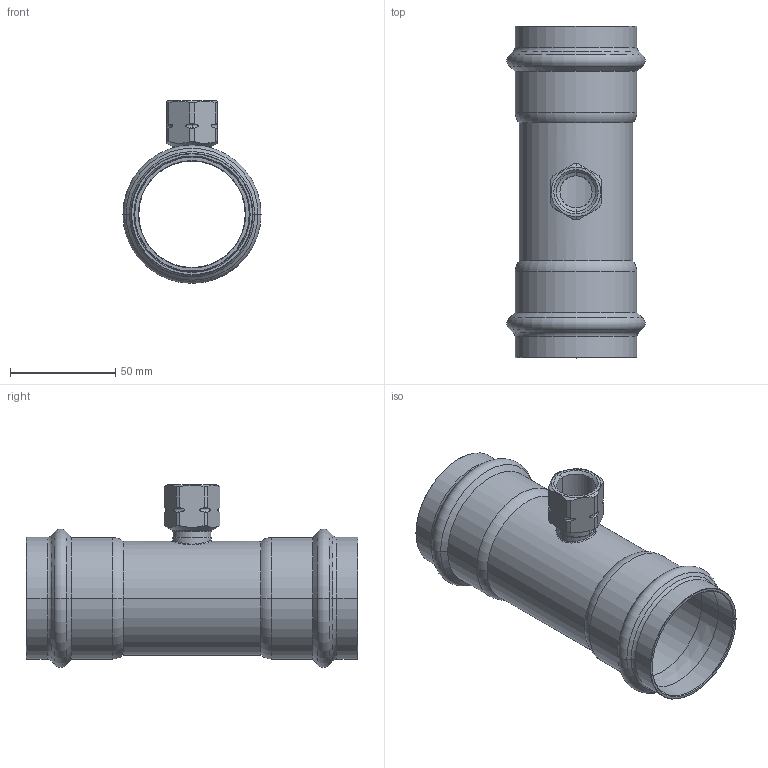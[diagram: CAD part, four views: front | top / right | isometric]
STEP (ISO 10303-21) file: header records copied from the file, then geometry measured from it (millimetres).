
FILE_DESCRIPTION(('CoCreate Modeling STEP Export'),'2;1');
FILE_NAME('8130GVW541254.stp','2013-03-05T 9:09:23',(''),(''),'CoCreate Modeling STEP processor for AP214 (Solid Model)','CoCreate Modeling 17.00A 17-Jun-2010 (C) Parametric Technology GmbH','');
FILE_SCHEMA(('AUTOMOTIVE_DESIGN { 1 0 10303 214 1 1 1 1 }'));
Length unit declared in the file: millimetre
Products named in the file (1): 8130GVW541254
Bounding box: 65.68 x 157.73 x 86.84 mm (x, y, z)
Volume: 61687.2 mm3; surface area: 60925 mm2
Topology: 1 solids, 1 shells, 143 faces, 342 edges, 206 vertices
Faces by surface type: cylinder 46, cone 46, torus 34, plane 13, bspline 4
Entity records: 8665 total; most frequent: CARTESIAN_POINT 5921, ORIENTED_EDGE 684, DIRECTION 422, EDGE_CURVE 342, VERTEX_POINT 206, AXIS2_PLACEMENT_3D 171, EDGE_LOOP 152, FACE_OUTER_BOUND 143
